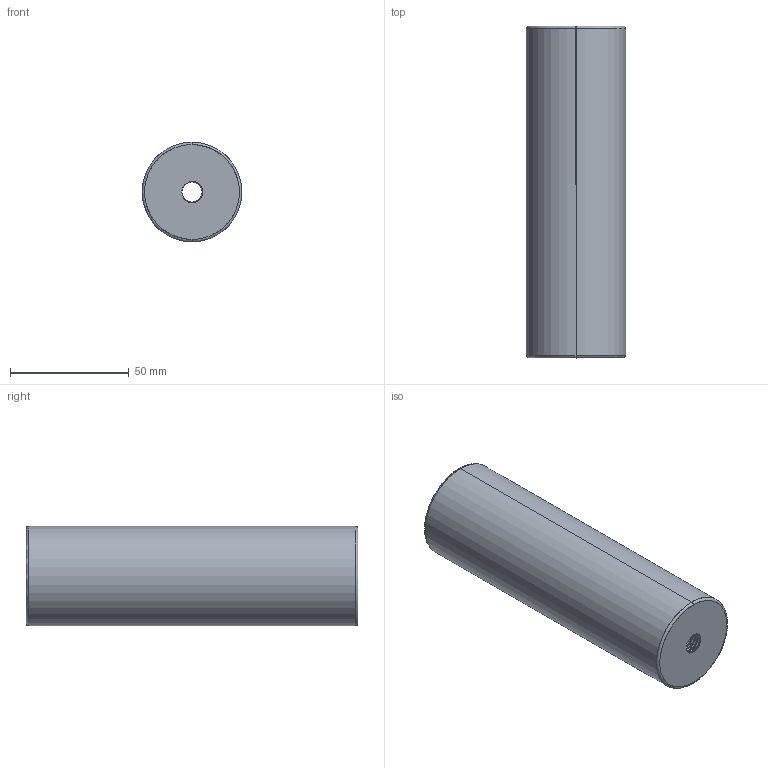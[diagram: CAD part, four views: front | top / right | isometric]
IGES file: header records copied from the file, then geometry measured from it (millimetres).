
Start section: SolidWorks IGES file using analytic representation for surfaces
Global section: file name: D:\Belgelerim\solid çalýþmalarým\D40 VÝDA KANALI AÇILACAK\ÝGS\D40_42X140.IGS; native system: SolidWorks 2008; preprocessor: SolidWorks 2008; author: kalite-mail; date: 080708.170546; units: millimetre
Bounding box: 42 x 140 x 42 mm (x, y, z)
Surface area: 34520.9 mm2 (no closed solid volume)
Topology: 0 solids, 0 shells, 58 faces, 1611 edges, 1611 vertices
Faces by surface type: revolution 45, bspline 13
